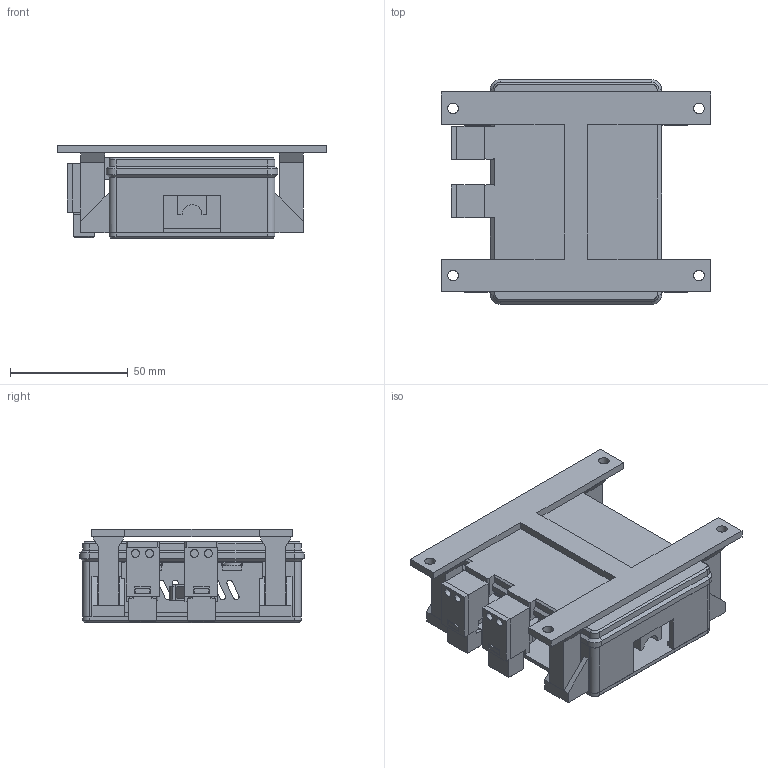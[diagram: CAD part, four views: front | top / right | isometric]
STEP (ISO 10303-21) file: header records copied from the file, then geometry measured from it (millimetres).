
FILE_DESCRIPTION(('Open CASCADE Model'),'2;1');
FILE_NAME('Open CASCADE Shape Model','2026-10-19T19:27:39',('Author'),( 'Open CASCADE'),'Open CASCADE STEP processor 7.9','build123d', 'Unknown');
FILE_SCHEMA(('AUTOMOTIVE_DESIGN { 1 0 10303 214 1 1 1 1 }'));
Length unit declared in the file: millimetre
Products named in the file (16): COMPOUND; lid; body; desk_bracket; pcb_clamp_left_front; pcb_clamp_left_rear; pcb_clamp_right_front; pcb_clamp_right_rear; reset_frame; reset_slider; reset_rear_keeper; reset_moving_magnet_keeper; boot_frame; boot_slider; boot_rear_keeper; boot_moving_magnet_keeper
Assembly tree (15 placements, depth 2):
  COMPOUND
    lid
    body
    desk_bracket
    pcb_clamp_left_front
    pcb_clamp_left_rear
    pcb_clamp_right_front
    pcb_clamp_right_rear
    reset_frame
    reset_slider
    reset_rear_keeper
    reset_moving_magnet_keeper
    boot_frame
    boot_slider
    boot_rear_keeper
    boot_moving_magnet_keeper
Bounding box: 114.5 x 95.4 x 39.6 mm (x, y, z)
Volume: 95111.5 mm3; surface area: 74327.3 mm2
Topology: 15 solids, 15 shells, 662 faces, 1786 edges, 1194 vertices
Faces by surface type: plane 522, cylinder 123, cone 16, bspline 1
Full cylindrical faces by diameter (mm): 3.4 x22, 4 x18, 4.5 x4
Entity records: 56345 total; most frequent: CARTESIAN_POINT 22501, DIRECTION 5577, LINE 4179, VECTOR 4179, ORIENTED_EDGE 3572, PCURVE 3572, DEFINITIONAL_REPRESENTATION 3572, EDGE_CURVE 1786
